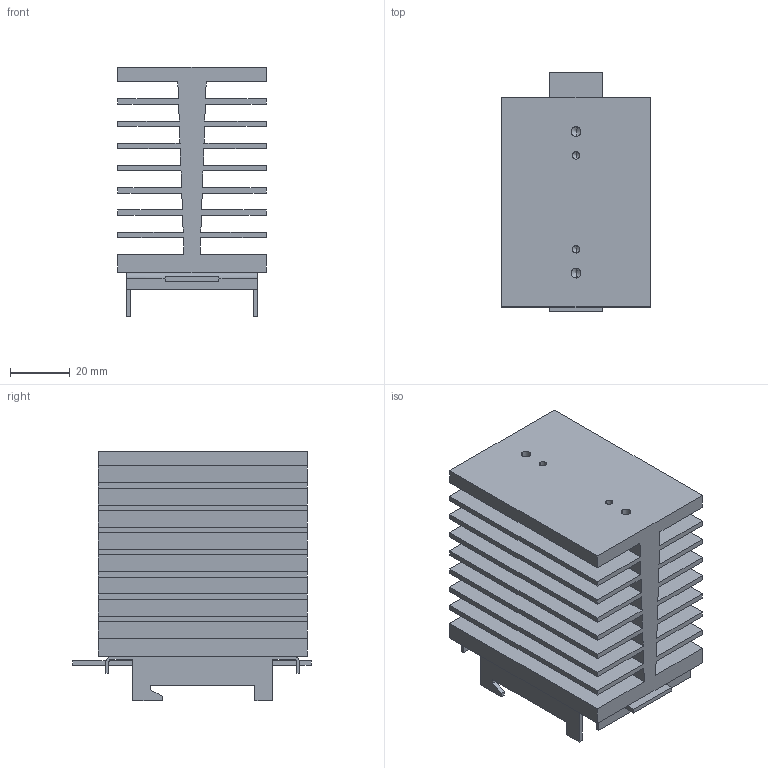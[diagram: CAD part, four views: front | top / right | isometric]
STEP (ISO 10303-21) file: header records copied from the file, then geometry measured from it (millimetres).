
FILE_DESCRIPTION (( 'STEP AP214' ), '1' );
FILE_NAME ('HS_003.STEP', '2024-04-12T07:43:47', ( '' ), ( '' ), 'SwSTEP 2.0', 'SolidWorks 2022', '' );
FILE_SCHEMA (( 'AUTOMOTIVE_DESIGN' ));
Length unit declared in the file: millimetre
Products named in the file (1): HS_003
Bounding box: 49.8 x 80.2 x 83.7 mm (x, y, z)
Volume: 112326 mm3; surface area: 74032.3 mm2
Topology: 1 solids, 1 shells, 133 faces, 388 edges, 252 vertices
Faces by surface type: plane 113, cylinder 12, cone 8
Entity records: 4400 total; most frequent: CARTESIAN_POINT 766, ORIENTED_EDGE 760, DIRECTION 680, EDGE_CURVE 380, LINE 348, VECTOR 348, VERTEX_POINT 252, AXIS2_PLACEMENT_3D 166
